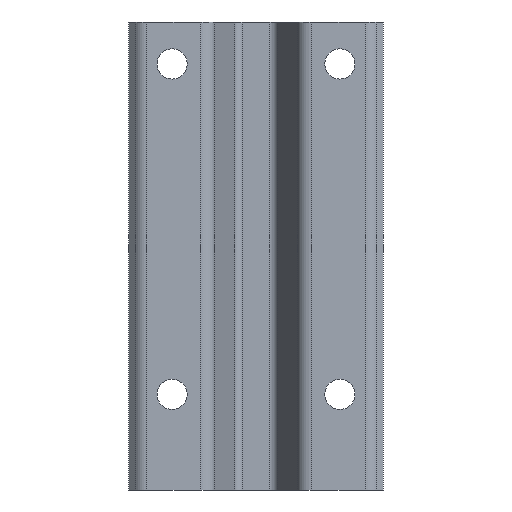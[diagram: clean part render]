
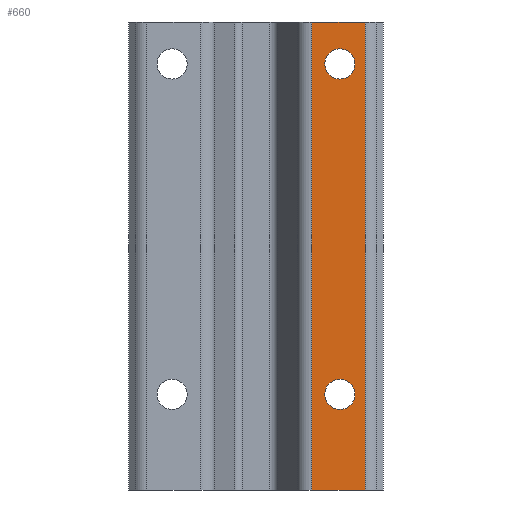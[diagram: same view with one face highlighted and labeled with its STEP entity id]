
A CAD part, front view. The second image highlights one B-rep face of the part: STEP entity #660.
In plain terms, the highlighted planar face has unit normal (0, -1, 0).
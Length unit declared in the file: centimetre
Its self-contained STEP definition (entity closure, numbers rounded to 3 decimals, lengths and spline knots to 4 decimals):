
#18=FACE_BOUND('',#93,.T.);
#19=FACE_BOUND('',#94,.T.);
#30=PLANE('',#712);
#56=FACE_OUTER_BOUND('',#92,.T.);
#92=EDGE_LOOP('',(#496,#497,#498,#499));
#93=EDGE_LOOP('',(#500));
#94=EDGE_LOOP('',(#501));
#144=LINE('',#1032,#208);
#145=LINE('',#1036,#209);
#146=LINE('',#1038,#210);
#147=LINE('',#1039,#211);
#208=VECTOR('',#834,0.1);
#209=VECTOR('',#839,0.1);
#210=VECTOR('',#840,0.1);
#211=VECTOR('',#841,0.1);
#247=CIRCLE('',#684,0.9);
#249=CIRCLE('',#687,0.9);
#279=VERTEX_POINT('',#950);
#281=VERTEX_POINT('',#956);
#306=VERTEX_POINT('',#1029);
#307=VERTEX_POINT('',#1031);
#308=VERTEX_POINT('',#1035);
#309=VERTEX_POINT('',#1037);
#344=EDGE_CURVE('',#279,#279,#247,.T.);
#347=EDGE_CURVE('',#281,#281,#249,.T.);
#383=EDGE_CURVE('',#307,#306,#144,.T.);
#385=EDGE_CURVE('',#306,#308,#145,.T.);
#386=EDGE_CURVE('',#309,#308,#146,.T.);
#387=EDGE_CURVE('',#309,#307,#147,.T.);
#496=ORIENTED_EDGE('',*,*,#385,.T.);
#497=ORIENTED_EDGE('',*,*,#386,.F.);
#498=ORIENTED_EDGE('',*,*,#387,.T.);
#499=ORIENTED_EDGE('',*,*,#383,.T.);
#500=ORIENTED_EDGE('',*,*,#344,.T.);
#501=ORIENTED_EDGE('',*,*,#347,.T.);
#660=ADVANCED_FACE('',(#56,#18,#19),#30,.T.);
#684=AXIS2_PLACEMENT_3D('',#952,#755,#756);
#687=AXIS2_PLACEMENT_3D('',#958,#762,#763);
#712=AXIS2_PLACEMENT_3D('',#1034,#837,#838);
#755=DIRECTION('center_axis',(0.,1.,0.));
#756=DIRECTION('ref_axis',(1.,0.,0.));
#762=DIRECTION('center_axis',(0.,1.,0.));
#763=DIRECTION('ref_axis',(1.,0.,0.));
#834=DIRECTION('',(0.,0.,1.));
#837=DIRECTION('center_axis',(0.,-1.,0.));
#838=DIRECTION('ref_axis',(0.,0.,-1.));
#839=DIRECTION('',(-1.,0.,0.));
#840=DIRECTION('',(0.,0.,1.));
#841=DIRECTION('',(1.,0.,0.));
#950=CARTESIAN_POINT('',(-111.8958,35.6396,5.7));
#952=CARTESIAN_POINT('Origin',(-110.9958,35.6396,5.7));
#956=CARTESIAN_POINT('',(-111.8958,35.6396,25.4));
#958=CARTESIAN_POINT('Origin',(-110.9958,35.6396,25.4));
#1029=CARTESIAN_POINT('',(-109.4706,35.6396,27.9));
#1031=CARTESIAN_POINT('',(-109.4706,35.6396,0.));
#1032=CARTESIAN_POINT('',(-109.4706,35.6396,0.));
#1034=CARTESIAN_POINT('Origin',(-109.4706,35.6396,0.));
#1035=CARTESIAN_POINT('',(-112.685,35.6396,27.9));
#1036=CARTESIAN_POINT('',(-112.685,35.6396,27.9));
#1037=CARTESIAN_POINT('',(-112.685,35.6396,0.));
#1038=CARTESIAN_POINT('',(-112.685,35.6396,0.));
#1039=CARTESIAN_POINT('',(-112.685,35.6396,0.));
